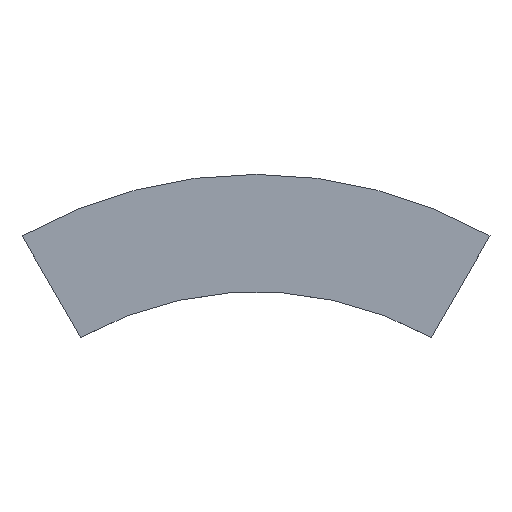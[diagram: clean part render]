
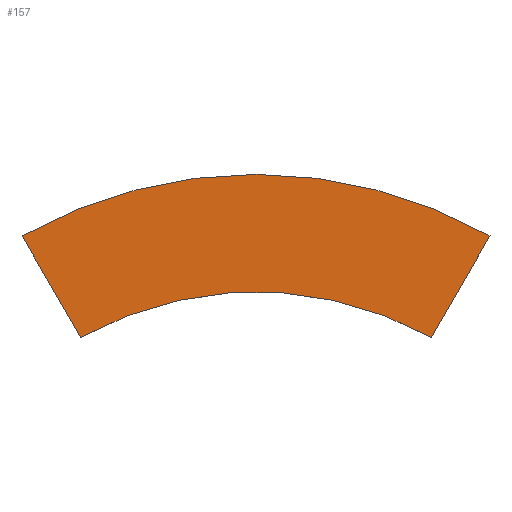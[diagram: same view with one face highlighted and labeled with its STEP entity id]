
A CAD part, top view. The second image highlights one B-rep face of the part: STEP entity #157.
In plain terms, the highlighted planar face has unit normal (0, 0, 1).
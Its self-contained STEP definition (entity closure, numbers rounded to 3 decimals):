
#24 = VERTEX_POINT('',#25);
#25 = CARTESIAN_POINT('',(29.479,81.704,1.));
#31 = EDGE_CURVE('',#24,#32,#34,.T.);
#32 = VERTEX_POINT('',#33);
#33 = CARTESIAN_POINT('',(-29.479,81.704,1.));
#34 = CIRCLE('',#35,60.);
#35 = AXIS2_PLACEMENT_3D('',#36,#37,#38);
#36 = CARTESIAN_POINT('',(0.,29.445,1.));
#37 = DIRECTION('',(0.,0.,1.));
#38 = DIRECTION('',(1.,0.,0.));
#64 = EDGE_CURVE('',#32,#65,#67,.T.);
#65 = VERTEX_POINT('',#66);
#66 = CARTESIAN_POINT('',(-22.078,68.886,1.));
#67 = LINE('',#68,#69);
#68 = CARTESIAN_POINT('',(-29.479,81.704,1.));
#69 = VECTOR('',#70,1.);
#70 = DIRECTION('',(0.5,-0.866,0.));
#97 = VERTEX_POINT('',#98);
#98 = CARTESIAN_POINT('',(22.078,68.886,1.));
#104 = EDGE_CURVE('',#97,#65,#105,.T.);
#105 = CIRCLE('',#106,45.2);
#106 = AXIS2_PLACEMENT_3D('',#107,#108,#109);
#107 = CARTESIAN_POINT('',(0.,29.445,1.));
#108 = DIRECTION('',(0.,0.,1.));
#109 = DIRECTION('',(1.,0.,0.));
#128 = EDGE_CURVE('',#24,#97,#129,.T.);
#129 = LINE('',#130,#131);
#130 = CARTESIAN_POINT('',(29.479,81.704,1.));
#131 = VECTOR('',#132,1.);
#132 = DIRECTION('',(-0.5,-0.866,0.));
#157 = ADVANCED_FACE('',(#158),#164,.T.);
#158 = FACE_BOUND('',#159,.T.);
#159 = EDGE_LOOP('',(#160,#161,#162,#163));
#160 = ORIENTED_EDGE('',*,*,#31,.T.);
#161 = ORIENTED_EDGE('',*,*,#64,.T.);
#162 = ORIENTED_EDGE('',*,*,#104,.F.);
#163 = ORIENTED_EDGE('',*,*,#128,.F.);
#164 = PLANE('',#165);
#165 = AXIS2_PLACEMENT_3D('',#166,#167,#168);
#166 = CARTESIAN_POINT('',(0.,79.21,1.));
#167 = DIRECTION('',(0.,0.,1.));
#168 = DIRECTION('',(1.,0.,0.));
